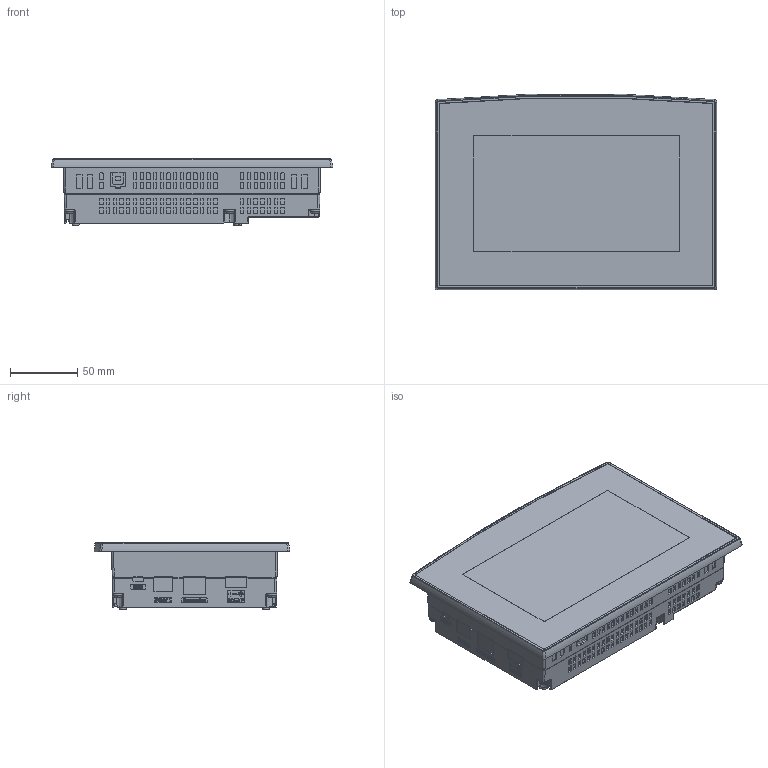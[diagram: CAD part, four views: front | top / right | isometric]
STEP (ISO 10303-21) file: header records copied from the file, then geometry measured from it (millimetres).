
FILE_DESCRIPTION (( 'STEP AP214' ), '1' );
FILE_NAME ('V700.STEP', '2024-04-18T13:35:00', ( '' ), ( '' ), 'SwSTEP 2.0', 'SolidWorks 2022', '' );
FILE_SCHEMA (( 'AUTOMOTIVE_DESIGN' ));
Length unit declared in the file: millimetre
Products named in the file (1): V700
Bounding box: 209.98 x 145.86 x 49.4 mm (x, y, z)
Volume: 1041080 mm3; surface area: 106735.1 mm2
Topology: 1 solids, 11 shells, 4704 faces, 12509 edges, 8162 vertices
Faces by surface type: plane 2496, cylinder 942, bspline 743, cone 313, torus 189, sphere 21
Entity records: 180493 total; most frequent: CARTESIAN_POINT 71518, ORIENTED_EDGE 24976, DIRECTION 19073, EDGE_CURVE 12488, VERTEX_POINT 8162, VECTOR 7161, LINE 7161, AXIS2_PLACEMENT_3D 5956
